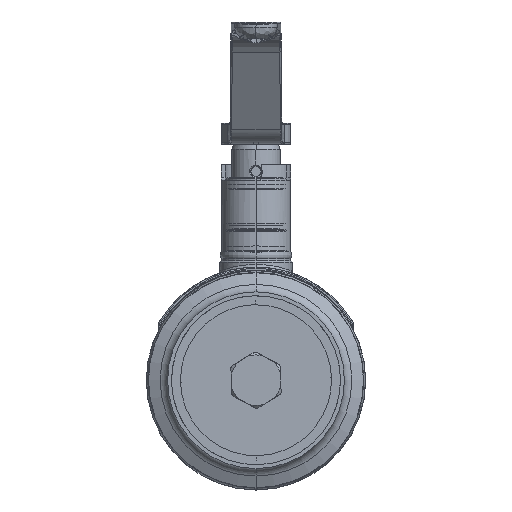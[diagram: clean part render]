
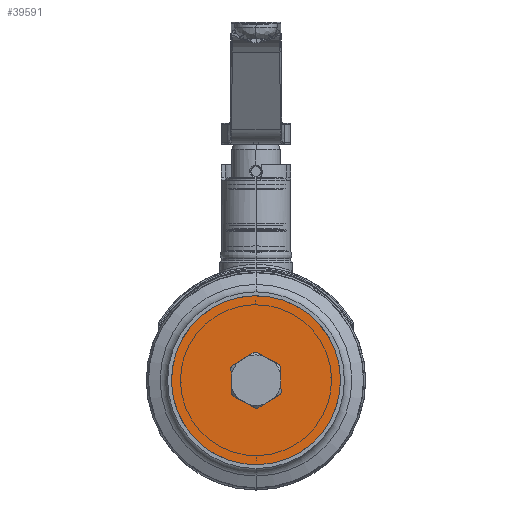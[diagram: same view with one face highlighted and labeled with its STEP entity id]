
A CAD part, left-side view. The second image highlights one B-rep face of the part: STEP entity #39591.
In plain terms, the highlighted planar face has unit normal (-1, 0, 0).
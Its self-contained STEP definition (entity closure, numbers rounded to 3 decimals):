
#14180=CARTESIAN_POINT('',(-76.6,0.,0.));
#14181=DIRECTION('',(-1.,0.,0.));
#14182=DIRECTION('',(0.,-0.999,0.032));
#14183=AXIS2_PLACEMENT_3D('',#14180,#14181,#14182);
#14193=CARTESIAN_POINT('',(-76.6,0.,0.));
#14194=DIRECTION('',(1.,0.,0.));
#14195=DIRECTION('',(0.,-0.999,0.032));
#14196=AXIS2_PLACEMENT_3D('',#14193,#14194,#14195);
#14198=CARTESIAN_POINT('',(-76.6,0.,0.));
#14199=DIRECTION('',(1.,0.,0.));
#14200=DIRECTION('',(0.,-0.068,-0.998));
#14201=AXIS2_PLACEMENT_3D('',#14198,#14199,#14200);
#14203=DIRECTION('',(0.,0.85,-0.527));
#14204=VECTOR('',#14203,10.062);
#14205=CARTESIAN_POINT('',(-76.6,-9.284,-5.419));
#14206=LINE('',#14205,#14204);
#14207=CARTESIAN_POINT('',(-76.6,0.,0.));
#14208=DIRECTION('',(1.,0.,0.));
#14209=DIRECTION('',(0.,-0.898,-0.44));
#14210=AXIS2_PLACEMENT_3D('',#14207,#14208,#14209);
#14212=DIRECTION('',(0.,-0.032,-0.999));
#14213=VECTOR('',#14212,10.062);
#14214=CARTESIAN_POINT('',(-76.6,-9.335,5.33));
#14215=LINE('',#14214,#14213);
#14216=CARTESIAN_POINT('',(-76.6,0.,0.));
#14217=DIRECTION('',(-1.,0.,0.));
#14218=DIRECTION('',(0.,-0.868,0.496));
#14219=AXIS2_PLACEMENT_3D('',#14216,#14217,#14218);
#14221=DIRECTION('',(0.,-0.881,-0.472));
#14222=VECTOR('',#14221,10.062);
#14223=CARTESIAN_POINT('',(-76.6,-0.051,10.75));
#14224=LINE('',#14223,#14222);
#14225=CARTESIAN_POINT('',(-76.6,0.,0.));
#14226=DIRECTION('',(-1.,0.,0.));
#14227=DIRECTION('',(0.,-0.005,1.));
#14228=AXIS2_PLACEMENT_3D('',#14225,#14226,#14227);
#14230=DIRECTION('',(0.,-0.85,0.527));
#14231=VECTOR('',#14230,10.062);
#14232=CARTESIAN_POINT('',(-76.6,9.284,5.419));
#14233=LINE('',#14232,#14231);
#14234=CARTESIAN_POINT('',(-76.6,0.,0.));
#14235=DIRECTION('',(-1.,0.,0.));
#14236=DIRECTION('',(0.,0.864,0.504));
#14237=AXIS2_PLACEMENT_3D('',#14234,#14235,#14236);
#14239=DIRECTION('',(0.,0.032,0.999));
#14240=VECTOR('',#14239,10.062);
#14241=CARTESIAN_POINT('',(-76.6,9.335,-5.33));
#14242=LINE('',#14241,#14240);
#14243=CARTESIAN_POINT('',(-76.6,0.,0.));
#14244=DIRECTION('',(1.,0.,0.));
#14245=DIRECTION('',(0.,0.83,-0.558));
#14246=AXIS2_PLACEMENT_3D('',#14243,#14244,#14245);
#14248=DIRECTION('',(0.,0.881,0.472));
#14249=VECTOR('',#14248,10.062);
#14250=CARTESIAN_POINT('',(-76.6,0.051,-10.75));
#14251=LINE('',#14250,#14249);
#16221=CARTESIAN_POINT('',(-76.6,-32.484,1.032));
#16223=VERTEX_POINT('',#16221);
#16225=CARTESIAN_POINT('',(-76.6,32.484,-1.032));
#16227=VERTEX_POINT('',#16225);
#16241=CARTESIAN_POINT('',(-76.6,-9.335,5.33));
#16242=CARTESIAN_POINT('',(-76.6,-8.921,5.998));
#16243=VERTEX_POINT('',#16241);
#16244=VERTEX_POINT('',#16242);
#16245=CARTESIAN_POINT('',(-76.6,-0.051,10.75));
#16246=CARTESIAN_POINT('',(-76.6,0.734,10.725));
#16247=VERTEX_POINT('',#16245);
#16248=VERTEX_POINT('',#16246);
#16249=CARTESIAN_POINT('',(-76.6,9.284,5.419));
#16250=CARTESIAN_POINT('',(-76.6,9.655,4.727));
#16251=VERTEX_POINT('',#16249);
#16252=VERTEX_POINT('',#16250);
#16253=CARTESIAN_POINT('',(-76.6,-9.655,-4.727));
#16254=CARTESIAN_POINT('',(-76.6,-9.284,-5.419));
#16255=VERTEX_POINT('',#16253);
#16256=VERTEX_POINT('',#16254);
#16257=CARTESIAN_POINT('',(-76.6,-0.734,-10.725));
#16258=CARTESIAN_POINT('',(-76.6,0.051,-10.75));
#16259=VERTEX_POINT('',#16257);
#16260=VERTEX_POINT('',#16258);
#16261=CARTESIAN_POINT('',(-76.6,8.921,-5.998));
#16262=CARTESIAN_POINT('',(-76.6,9.335,-5.33));
#16263=VERTEX_POINT('',#16261);
#16264=VERTEX_POINT('',#16262);
#39556=CARTESIAN_POINT('',(-76.6,0.,0.));
#39557=DIRECTION('',(-1.,0.,0.));
#39558=DIRECTION('',(0.,0.999,-0.032));
#39559=AXIS2_PLACEMENT_3D('',#39556,#39557,#39558);
#39560=PLANE('',#39559);
#39561=ORIENTED_EDGE('',*,*,#39551,.T.);
#39562=ORIENTED_EDGE('',*,*,#39535,.F.);
#39563=EDGE_LOOP('',(#39561,#39562));
#39564=FACE_OUTER_BOUND('',#39563,.F.);
#39566=ORIENTED_EDGE('',*,*,#39565,.F.);
#39568=ORIENTED_EDGE('',*,*,#39567,.F.);
#39570=ORIENTED_EDGE('',*,*,#39569,.F.);
#39572=ORIENTED_EDGE('',*,*,#39571,.F.);
#39574=ORIENTED_EDGE('',*,*,#39573,.T.);
#39576=ORIENTED_EDGE('',*,*,#39575,.F.);
#39578=ORIENTED_EDGE('',*,*,#39577,.T.);
#39580=ORIENTED_EDGE('',*,*,#39579,.F.);
#39582=ORIENTED_EDGE('',*,*,#39581,.T.);
#39584=ORIENTED_EDGE('',*,*,#39583,.F.);
#39586=ORIENTED_EDGE('',*,*,#39585,.F.);
#39588=ORIENTED_EDGE('',*,*,#39587,.F.);
#39589=EDGE_LOOP('',(#39566,#39568,#39570,#39572,#39574,#39576,#39578,#39580,
#39582,#39584,#39586,#39588));
#39590=FACE_BOUND('',#39589,.F.);
#39591=ADVANCED_FACE('',(#39564,#39590),#39560,.T.);
#14184=CIRCLE('',#14183,32.5);
#14197=CIRCLE('',#14196,32.5);
#14202=CIRCLE('',#14201,10.75);
#14211=CIRCLE('',#14210,10.75);
#14220=CIRCLE('',#14219,10.75);
#14229=CIRCLE('',#14228,10.75);
#14238=CIRCLE('',#14237,10.75);
#14247=CIRCLE('',#14246,10.75);
#39535=EDGE_CURVE('',#16223,#16227,#14184,.T.);
#39551=EDGE_CURVE('',#16223,#16227,#14197,.T.);
#39565=EDGE_CURVE('',#16259,#16260,#14202,.T.);
#39567=EDGE_CURVE('',#16256,#16259,#14206,.T.);
#39569=EDGE_CURVE('',#16255,#16256,#14211,.T.);
#39571=EDGE_CURVE('',#16243,#16255,#14215,.T.);
#39573=EDGE_CURVE('',#16243,#16244,#14220,.T.);
#39575=EDGE_CURVE('',#16247,#16244,#14224,.T.);
#39577=EDGE_CURVE('',#16247,#16248,#14229,.T.);
#39579=EDGE_CURVE('',#16251,#16248,#14233,.T.);
#39581=EDGE_CURVE('',#16251,#16252,#14238,.T.);
#39583=EDGE_CURVE('',#16264,#16252,#14242,.T.);
#39585=EDGE_CURVE('',#16263,#16264,#14247,.T.);
#39587=EDGE_CURVE('',#16260,#16263,#14251,.T.);
